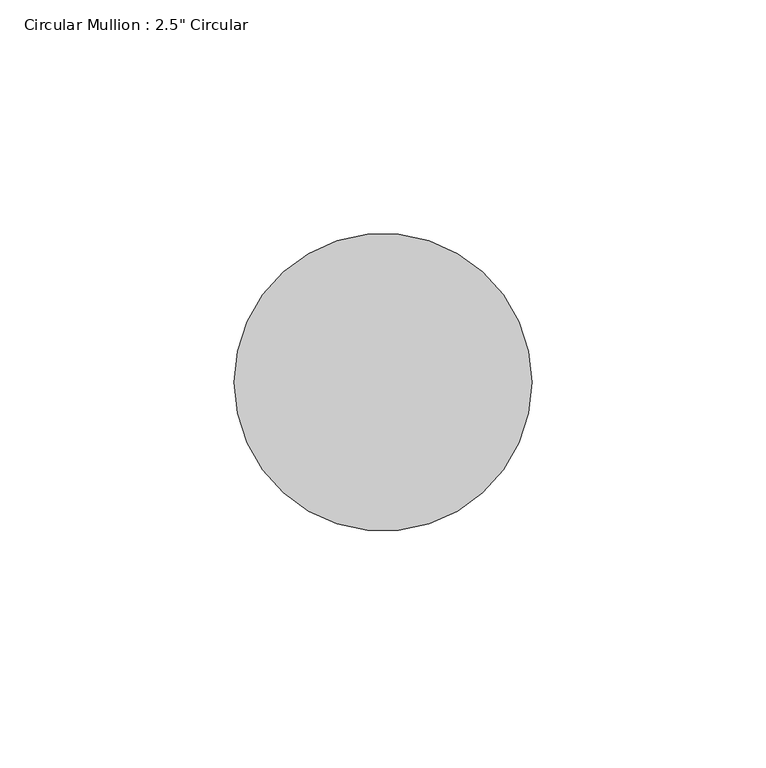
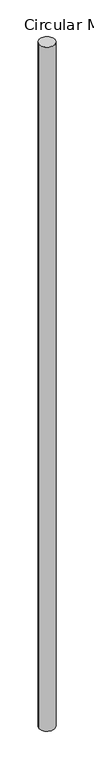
"""IFC4 building model written with IfcOpenShell, lengths in millimetres: member geometry."""

from ifc_helpers import new_model, si_unit, point, frame, origin, origin_2d, place, context, project, spatial, circle_curve, trimmed, segment, composite_curve, outline, extrude, source, transform, mapped, element, save


def member_7d765077(model_context):
    return source(origin(), model_context, "Body", "SweptSolid", [
        extrude(outline(composite_curve([segment(trimmed(circle_curve(origin_2d(), 31.75), [point((31.75, 0.0))], [point((-31.75, 0.0))], False, "CARTESIAN"), True, "CONTINUOUS"), segment(trimmed(circle_curve(origin_2d(), 31.75), [point((-31.75, 0.0))], [point((31.75, 0.0))], False, "CARTESIAN"), True, "CONTINUOUS")], self_intersect=False)), frame((0.0, 0.0, -2940.4254915), z_axis=(0.0, 0.0, 1.0), x_axis=(1.0, 0.0, 0.0)), (0.0, 0.0, 1.0), 2940.4254915),
    ])


if __name__ == "__main__":
    model = new_model("IFC4")
    model_context = context("Model", 3, world=origin())
    ifc_project = project(units=[si_unit("LENGTHUNIT", "METRE", prefix="MILLI")], contexts=[model_context])
    site = spatial("IfcSite", under=ifc_project)
    building = spatial("IfcBuilding", under=site)
    placement = place(None, origin())
    member_shape = member_7d765077(model_context)
    element("IfcMember", 1, ObjectType="Circular Mullion : 2.5\" Circular", at=placement, inside=building, context=model_context, shape_type="MappedRepresentation", body=[
        mapped(member_shape, transform((0.0, 0.0, 0.0), x_axis=(1.0, 0.0, 0.0), y_axis=(0.0, 1.0, 0.0), z_axis=(0.0, 0.0, 1.0))),
    ])
    save(model, "model.ifc")
